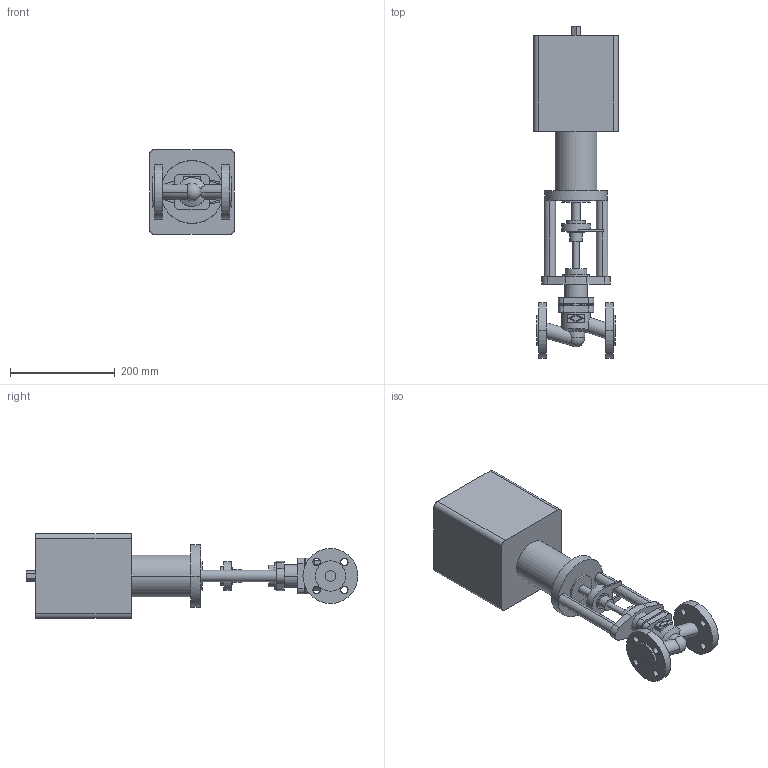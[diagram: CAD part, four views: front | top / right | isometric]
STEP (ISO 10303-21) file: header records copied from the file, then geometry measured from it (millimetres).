
FILE_DESCRIPTION( ( '' ), '1' );
FILE_NAME( 'F:/DE-SHS/TB/OR/04-Sonstiges/daten/files_3d/c000000774.stp', '2014-11-04T12:58:21', ( '' ), ( '' ), ' ', ' ', ' ' );
FILE_SCHEMA( ( 'CONFIG_CONTROL_DESIGN' ) );
Length unit declared in the file: millimetre
Products named in the file (2): 1; 2
Bounding box: 162 x 633.5 x 162 mm (x, y, z)
Volume: 6429330.8 mm3; surface area: 352417.9 mm2
Topology: 2 solids, 2 shells, 162 faces, 396 edges, 262 vertices
Faces by surface type: cylinder 82, plane 77, cone 2, sphere 1
Entity records: 5227 total; most frequent: CARTESIAN_POINT 1136, DIRECTION 885, ORIENTED_EDGE 788, EDGE_CURVE 394, AXIS2_PLACEMENT_3D 341, VERTEX_POINT 262, EDGE_LOOP 204, LINE 203
